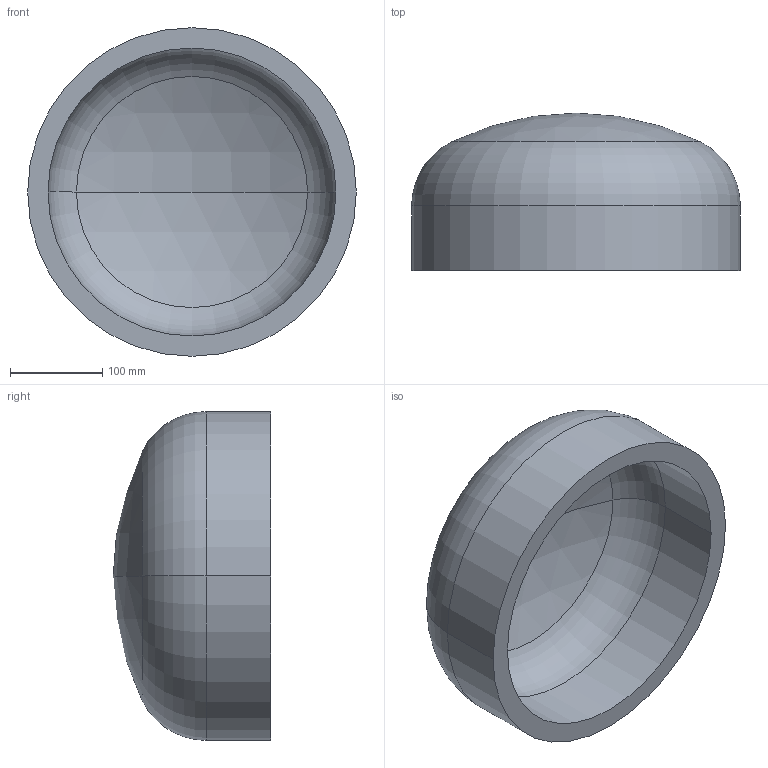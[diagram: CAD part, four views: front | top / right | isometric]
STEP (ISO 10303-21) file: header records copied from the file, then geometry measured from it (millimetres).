
FILE_DESCRIPTION (( 'STEP AP203' ), '1' );
FILE_NAME ('DIN 28013 Korbbogenform_-_Boden DIN 28013 - 355,6 x 70 - I - s=22.step', '2016-07-01T07:46:59', ( '' ), ( '' ), 'SwSTEP 2.0', 'SolidWorks 2013', '' );
FILE_SCHEMA (( 'CONFIG_CONTROL_DESIGN' ));
Length unit declared in the file: millimetre
Products named in the file (1): DIN 28013 Korbbogenform_-_Boden DIN 28013 - 355,6 x 70 - I - s=22
Bounding box: 355.6 x 170.38 x 355.6 mm (x, y, z)
Volume: 4413647.4 mm3; surface area: 425311.1 mm2
Topology: 1 solids, 1 shells, 13 faces, 24 edges, 14 vertices
Faces by surface type: torus 4, cylinder 4, sphere 4, plane 1
Entity records: 407 total; most frequent: DIRECTION 72, CARTESIAN_POINT 52, ORIENTED_EDGE 48, AXIS2_PLACEMENT_3D 34, EDGE_CURVE 24, CIRCLE 20, VERTEX_POINT 14, EDGE_LOOP 14
